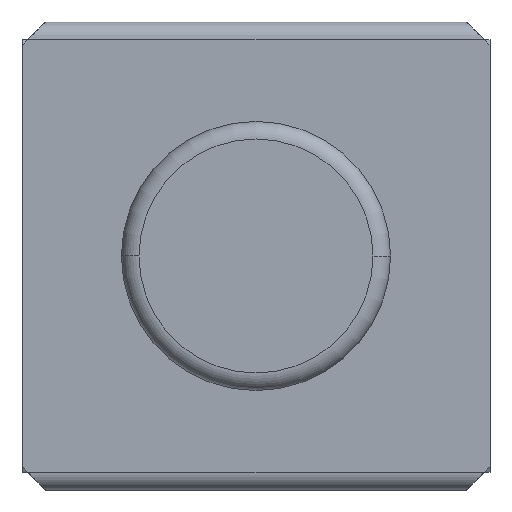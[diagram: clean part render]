
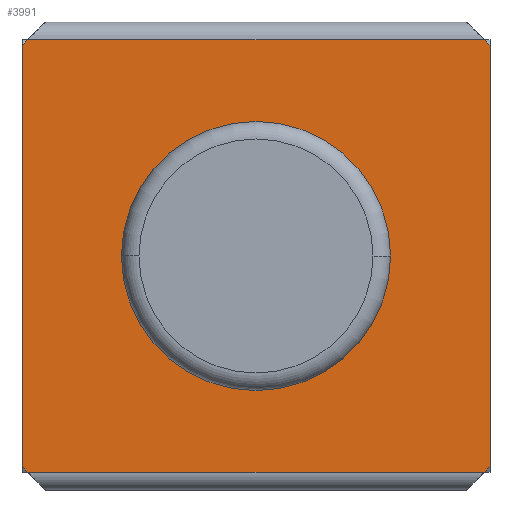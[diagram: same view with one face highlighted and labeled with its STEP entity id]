
A CAD part, front view. The second image highlights one B-rep face of the part: STEP entity #3991.
In plain terms, the highlighted planar face has unit normal (0, -1, 0).
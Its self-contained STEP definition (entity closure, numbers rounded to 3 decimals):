
#22=DIRECTION('',(-0.707,0.,0.707));
#23=VECTOR('',#22,0.707);
#24=CARTESIAN_POINT('',(-19.5,-12.,-18.5));
#25=LINE('',#24,#23);
#26=DIRECTION('',(0.707,0.,0.707));
#27=VECTOR('',#26,0.707);
#28=CARTESIAN_POINT('',(-20.,-12.,18.));
#29=LINE('',#28,#27);
#30=DIRECTION('',(0.707,0.,-0.707));
#31=VECTOR('',#30,0.707);
#32=CARTESIAN_POINT('',(19.5,-12.,18.5));
#33=LINE('',#32,#31);
#34=DIRECTION('',(-0.707,0.,-0.707));
#35=VECTOR('',#34,0.707);
#36=CARTESIAN_POINT('',(20.,-12.,-18.));
#37=LINE('',#36,#35);
#38=CARTESIAN_POINT('',(0.,-12.,0.));
#39=DIRECTION('',(0.,-1.,0.));
#40=DIRECTION('',(-1.,0.,0.));
#41=AXIS2_PLACEMENT_3D('',#38,#39,#40);
#43=CARTESIAN_POINT('',(0.,-12.,0.));
#44=DIRECTION('',(0.,-1.,0.));
#45=DIRECTION('',(1.,0.,0.));
#46=AXIS2_PLACEMENT_3D('',#43,#44,#45);
#64=DIRECTION('',(1.,0.,0.));
#65=VECTOR('',#64,39.);
#66=CARTESIAN_POINT('',(-19.5,-12.,-18.5));
#67=LINE('',#66,#65);
#200=DIRECTION('',(0.,0.,1.));
#201=VECTOR('',#200,36.);
#202=CARTESIAN_POINT('',(20.,-12.,-18.));
#203=LINE('',#202,#201);
#412=DIRECTION('',(0.,0.,-1.));
#413=VECTOR('',#412,36.);
#414=CARTESIAN_POINT('',(-20.,-12.,18.));
#415=LINE('',#414,#413);
#2900=DIRECTION('',(-1.,0.,0.));
#2901=VECTOR('',#2900,39.);
#2902=CARTESIAN_POINT('',(19.5,-12.,18.5));
#2903=LINE('',#2902,#2901);
#3246=CARTESIAN_POINT('',(-19.5,-12.,-18.5));
#3247=CARTESIAN_POINT('',(19.5,-12.,-18.5));
#3248=VERTEX_POINT('',#3246);
#3249=VERTEX_POINT('',#3247);
#3250=CARTESIAN_POINT('',(-20.,-12.,-18.));
#3251=VERTEX_POINT('',#3250);
#3252=CARTESIAN_POINT('',(-20.,-12.,18.));
#3253=VERTEX_POINT('',#3252);
#3254=CARTESIAN_POINT('',(-19.5,-12.,18.5));
#3255=VERTEX_POINT('',#3254);
#3256=CARTESIAN_POINT('',(19.5,-12.,18.5));
#3257=VERTEX_POINT('',#3256);
#3258=CARTESIAN_POINT('',(20.,-12.,18.));
#3259=VERTEX_POINT('',#3258);
#3260=CARTESIAN_POINT('',(20.,-12.,-18.));
#3261=VERTEX_POINT('',#3260);
#3262=CARTESIAN_POINT('',(-11.5,-12.,0.));
#3263=CARTESIAN_POINT('',(11.5,-12.,0.));
#3264=VERTEX_POINT('',#3262);
#3265=VERTEX_POINT('',#3263);
#3962=CARTESIAN_POINT('',(0.,-12.,0.));
#3963=DIRECTION('',(0.,1.,0.));
#3964=DIRECTION('',(1.,0.,0.));
#3965=AXIS2_PLACEMENT_3D('',#3962,#3963,#3964);
#3966=PLANE('',#3965);
#3968=ORIENTED_EDGE('',*,*,#3967,.F.);
#3970=ORIENTED_EDGE('',*,*,#3969,.T.);
#3972=ORIENTED_EDGE('',*,*,#3971,.F.);
#3974=ORIENTED_EDGE('',*,*,#3973,.T.);
#3976=ORIENTED_EDGE('',*,*,#3975,.F.);
#3978=ORIENTED_EDGE('',*,*,#3977,.T.);
#3980=ORIENTED_EDGE('',*,*,#3979,.F.);
#3982=ORIENTED_EDGE('',*,*,#3981,.T.);
#3983=EDGE_LOOP('',(#3968,#3970,#3972,#3974,#3976,#3978,#3980,#3982));
#3984=FACE_OUTER_BOUND('',#3983,.F.);
#3986=ORIENTED_EDGE('',*,*,#3985,.T.);
#3988=ORIENTED_EDGE('',*,*,#3987,.T.);
#3989=EDGE_LOOP('',(#3986,#3988));
#3990=FACE_BOUND('',#3989,.F.);
#3991=ADVANCED_FACE('',(#3984,#3990),#3966,.F.);
#42=CIRCLE('',#41,11.5);
#47=CIRCLE('',#46,11.5);
#3967=EDGE_CURVE('',#3248,#3249,#67,.T.);
#3969=EDGE_CURVE('',#3248,#3251,#25,.T.);
#3971=EDGE_CURVE('',#3253,#3251,#415,.T.);
#3973=EDGE_CURVE('',#3253,#3255,#29,.T.);
#3975=EDGE_CURVE('',#3257,#3255,#2903,.T.);
#3977=EDGE_CURVE('',#3257,#3259,#33,.T.);
#3979=EDGE_CURVE('',#3261,#3259,#203,.T.);
#3981=EDGE_CURVE('',#3261,#3249,#37,.T.);
#3985=EDGE_CURVE('',#3264,#3265,#42,.T.);
#3987=EDGE_CURVE('',#3265,#3264,#47,.T.);
